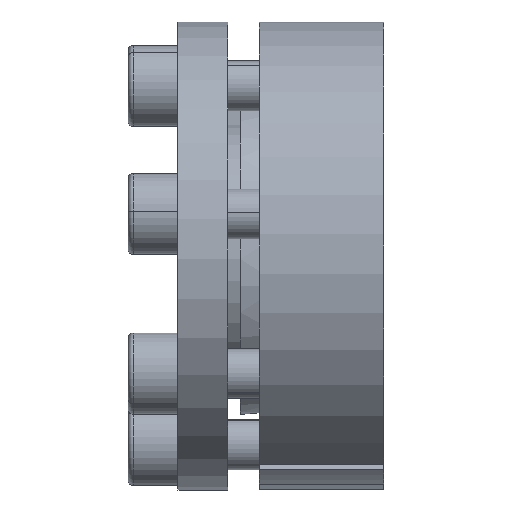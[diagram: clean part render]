
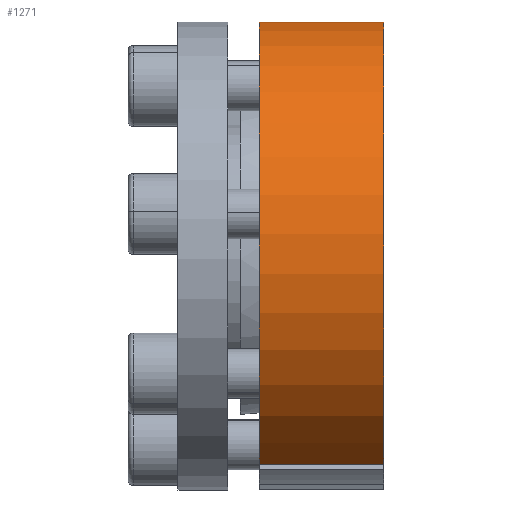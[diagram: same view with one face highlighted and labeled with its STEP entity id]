
A CAD part, front view. The second image highlights one B-rep face of the part: STEP entity #1271.
In plain terms, the highlighted cylindrical face has radius 37.5 mm (diameter 75 mm), a partial arc.
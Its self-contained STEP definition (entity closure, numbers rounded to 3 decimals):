
#150 = DIRECTION ( 'NONE',  ( 0., -0.223, -0.975 ) ) ;
#186 = DIRECTION ( 'NONE',  ( 0., -0.223, -0.975 ) ) ;
#281 = EDGE_CURVE ( 'NONE', #3916, #5338, #4832, .T. ) ;
#290 = CYLINDRICAL_SURFACE ( 'NONE', #1396, 37.5 ) ;
#369 = LINE ( 'NONE', #2245, #2814 ) ;
#522 = ORIENTED_EDGE ( 'NONE', *, *, #4064, .T. ) ;
#698 = VECTOR ( 'NONE', #4685, 1000. ) ;
#769 = CARTESIAN_POINT ( 'NONE',  ( -15.052, 0.383, 36.566 ) ) ;
#853 = EDGE_LOOP ( 'NONE', ( #3234, #522, #3193, #4603 ) ) ;
#1026 = DIRECTION ( 'NONE',  ( -1., 0., 0. ) ) ;
#1207 = AXIS2_PLACEMENT_3D ( 'NONE', #4265, #5055, #186 ) ;
#1211 = CARTESIAN_POINT ( 'NONE',  ( -15.052, -7.962, 0.006 ) ) ;
#1271 = ADVANCED_FACE ( 'NONE', ( #5158 ), #290, .T. ) ;
#1396 = AXIS2_PLACEMENT_3D ( 'NONE', #1211, #1026, #1682 ) ;
#1451 = CARTESIAN_POINT ( 'NONE',  ( -15.052, -25.13, -33.333 ) ) ;
#1682 = DIRECTION ( 'NONE',  ( 0., -0.223, -0.975 ) ) ;
#1900 = CARTESIAN_POINT ( 'NONE',  ( 4.948, -25.13, -33.333 ) ) ;
#2245 = CARTESIAN_POINT ( 'NONE',  ( -15.052, 0.383, 36.566 ) ) ;
#2615 = EDGE_CURVE ( 'NONE', #5026, #4959, #5611, .T. ) ;
#2814 = VECTOR ( 'NONE', #5003, 1000. ) ;
#2864 = AXIS2_PLACEMENT_3D ( 'NONE', #5631, #2928, #150 ) ;
#2928 = DIRECTION ( 'NONE',  ( -1., 0., 0. ) ) ;
#3033 = LINE ( 'NONE', #1451, #698 ) ;
#3193 = ORIENTED_EDGE ( 'NONE', *, *, #281, .F. ) ;
#3234 = ORIENTED_EDGE ( 'NONE', *, *, #2615, .T. ) ;
#3726 = CARTESIAN_POINT ( 'NONE',  ( 4.948, 0.383, 36.566 ) ) ;
#3916 = VERTEX_POINT ( 'NONE', #4870 ) ;
#4064 = EDGE_CURVE ( 'NONE', #4959, #5338, #369, .T. ) ;
#4208 = EDGE_CURVE ( 'NONE', #3916, #5026, #3033, .T. ) ;
#4265 = CARTESIAN_POINT ( 'NONE',  ( -15.052, -7.962, 0.006 ) ) ;
#4603 = ORIENTED_EDGE ( 'NONE', *, *, #4208, .T. ) ;
#4685 = DIRECTION ( 'NONE',  ( 1., 0., 0. ) ) ;
#4832 = CIRCLE ( 'NONE', #1207, 37.5 ) ;
#4870 = CARTESIAN_POINT ( 'NONE',  ( -15.052, -25.13, -33.333 ) ) ;
#4959 = VERTEX_POINT ( 'NONE', #3726 ) ;
#5003 = DIRECTION ( 'NONE',  ( -1., 0., 0. ) ) ;
#5026 = VERTEX_POINT ( 'NONE', #1900 ) ;
#5055 = DIRECTION ( 'NONE',  ( -1., 0., 0. ) ) ;
#5158 = FACE_OUTER_BOUND ( 'NONE', #853, .T. ) ;
#5338 = VERTEX_POINT ( 'NONE', #769 ) ;
#5611 = CIRCLE ( 'NONE', #2864, 37.5 ) ;
#5631 = CARTESIAN_POINT ( 'NONE',  ( 4.948, -7.962, 0.006 ) ) ;
